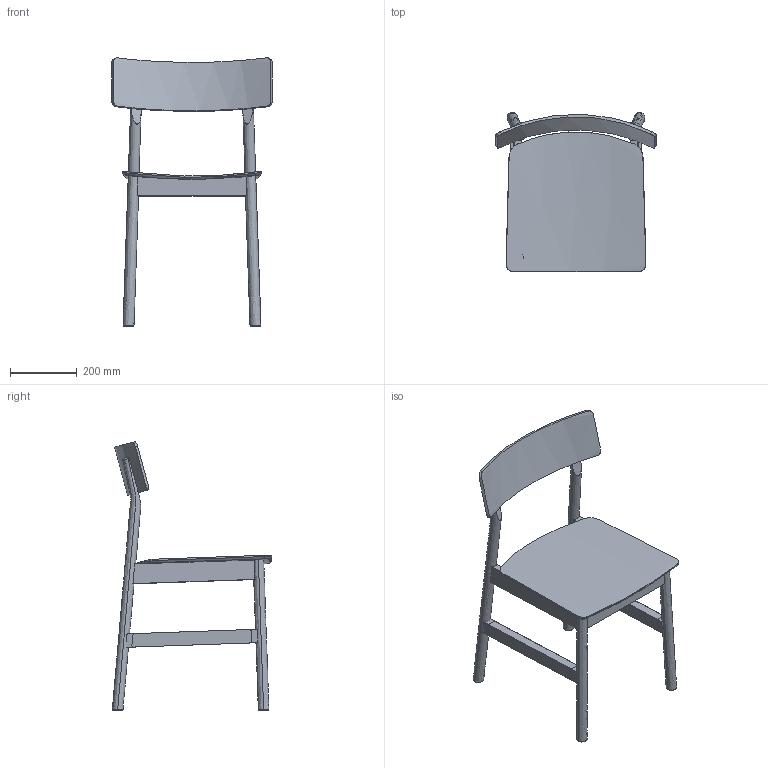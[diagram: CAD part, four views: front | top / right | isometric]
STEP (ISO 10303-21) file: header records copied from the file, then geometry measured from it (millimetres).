
FILE_DESCRIPTION(/* description */ (''),/* implementation_level */ '2;1');
FILE_NAME(/* name */ 'Pause dining',/* time_stamp */ '2019-09-17T08:24:32+02:00',/* author */ (''),/* organization */ (''),/* preprocessor_version */ 'ST-DEVELOPER v15',/* originating_system */ '',/* authorisation */ '');
FILE_SCHEMA (('AUTOMOTIVE_DESIGN'));
Length unit declared in the file: millimetre
Products named in the file (1): Document
Bounding box: 480.7 x 477.76 x 804.43 mm (x, y, z)
Volume: 5574824.4 mm3; surface area: 1167471.7 mm2
Topology: 10 solids, 70 shells, 152 faces, 508 edges, 438 vertices
Faces by surface type: bspline 108, plane 44
Entity records: 11714 total; most frequent: CARTESIAN_POINT 8118, ORIENTED_EDGE 704, EDGE_CURVE 508, B_SPLINE_CURVE_WITH_KNOTS 470, VERTEX_POINT 438, EDGE_LOOP 154, ADVANCED_FACE 152, FACE_OUTER_BOUND 152
